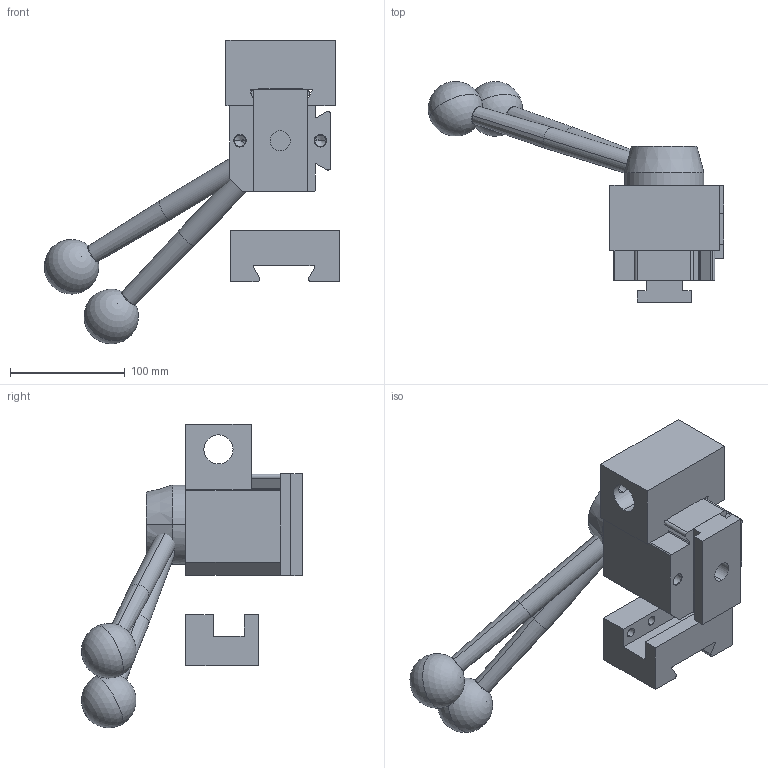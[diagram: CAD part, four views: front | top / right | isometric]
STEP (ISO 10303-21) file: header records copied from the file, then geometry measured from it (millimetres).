
FILE_DESCRIPTION (( 'STEP AP214' ), '1' );
FILE_NAME ('04-0966, 04-0967.STEP', '2022-12-09T21:35:04', ( '' ), ( '' ), 'SwSTEP 2.0', 'SolidWorks 2021', '' );
FILE_SCHEMA (( 'AUTOMOTIVE_DESIGN' ));
Length unit declared in the file: inch
Products named in the file (11): Tool Post; 10000083095ECOM_1_5; 10000083095ECOM_1_4; 10000083095ECOM_1_6; Turning Holder; 10000083095ECOM_1; 10000083095ECOM_1_2; 10000083095ECOM_1_7; 04-0966, 04-0967; Boring Holder; 10000083095ECOM_1_3
Assembly tree (10 placements, depth 3):
  04-0966, 04-0967
    Tool Post
      10000083095ECOM_1_5
      10000083095ECOM_1_4
      10000083095ECOM_1_3
      10000083095ECOM_1
      10000083095ECOM_1_7
      10000083095ECOM_1_2
      10000083095ECOM_1_6
    Turning Holder
    Boring Holder
Bounding box: 256.96 x 192.28 x 264.35 mm (x, y, z)
Volume: 1279488.3 mm3; surface area: 183263.9 mm2
Topology: 9 solids, 9 shells, 175 faces, 443 edges, 282 vertices
Faces by surface type: plane 69, cylinder 68, cone 34, sphere 4
Entity records: 6050 total; most frequent: CARTESIAN_POINT 1288, DIRECTION 950, ORIENTED_EDGE 842, EDGE_CURVE 421, AXIS2_PLACEMENT_3D 352, VERTEX_POINT 276, VECTOR 246, LINE 246
